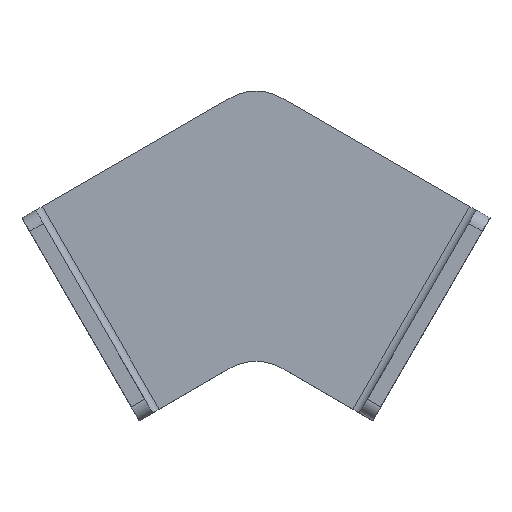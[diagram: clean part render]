
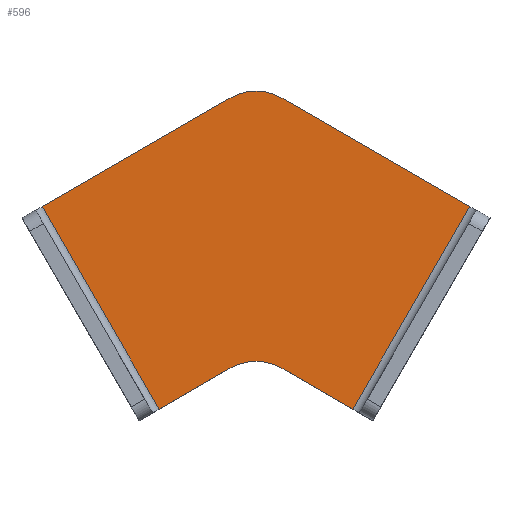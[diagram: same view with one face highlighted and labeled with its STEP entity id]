
A CAD part, top view. The second image highlights one B-rep face of the part: STEP entity #596.
In plain terms, the highlighted planar face has unit normal (0, 0, 1).
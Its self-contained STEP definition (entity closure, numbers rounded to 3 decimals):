
#7 = CARTESIAN_POINT ( 'NONE',  ( -1.69, 4.491, 3. ) ) ;
#10 = CARTESIAN_POINT ( 'NONE',  ( -51.69, 33.358, 3. ) ) ;
#28 = DIRECTION ( 'NONE',  ( -1., 0., 0. ) ) ;
#36 = EDGE_CURVE ( 'NONE', #931, #1058, #1040, .T. ) ;
#46 = AXIS2_PLACEMENT_3D ( 'NONE', #1130, #594, #51 ) ;
#51 = DIRECTION ( 'NONE',  ( -1., 0., 0. ) ) ;
#85 = EDGE_CURVE ( 'NONE', #449, #556, #1132, .T. ) ;
#109 = EDGE_LOOP ( 'NONE', ( #788, #1150, #780, #903, #578, #944, #770, #685 ) ) ;
#175 = LINE ( 'NONE', #10, #899 ) ;
#182 = CARTESIAN_POINT ( 'NONE',  ( -11.69, 4.491, 3. ) ) ;
#288 = VECTOR ( 'NONE', #1068, 1000. ) ;
#303 = EDGE_CURVE ( 'NONE', #556, #931, #943, .T. ) ;
#310 = LINE ( 'NONE', #925, #1016 ) ;
#329 = VERTEX_POINT ( 'NONE', #962 ) ;
#343 = FACE_OUTER_BOUND ( 'NONE', #109, .T. ) ;
#374 = DIRECTION ( 'NONE',  ( 0., 0., -1. ) ) ;
#408 = AXIS2_PLACEMENT_3D ( 'NONE', #463, #374, #1012 ) ;
#412 = CARTESIAN_POINT ( 'NONE',  ( 38.31, 33.358, 3. ) ) ;
#449 = VERTEX_POINT ( 'NONE', #721 ) ;
#463 = CARTESIAN_POINT ( 'NONE',  ( 0., 0., 3. ) ) ;
#468 = VECTOR ( 'NONE', #1049, 1000. ) ;
#485 = VERTEX_POINT ( 'NONE', #1077 ) ;
#517 = CARTESIAN_POINT ( 'NONE',  ( -11.69, 56.452, 3. ) ) ;
#525 = LINE ( 'NONE', #800, #288 ) ;
#549 = DIRECTION ( 'NONE',  ( -0.866, -0.5, 0. ) ) ;
#556 = VERTEX_POINT ( 'NONE', #741 ) ;
#561 = DIRECTION ( 'NONE',  ( 0.866, 0.5, 0. ) ) ;
#571 = DIRECTION ( 'NONE',  ( 0., 0., -1. ) ) ;
#578 = ORIENTED_EDGE ( 'NONE', *, *, #629, .T. ) ;
#594 = DIRECTION ( 'NONE',  ( 0., 0., 1. ) ) ;
#596 = ADVANCED_FACE ( 'NONE', ( #343 ), #921, .F. ) ;
#629 = EDGE_CURVE ( 'NONE', #755, #449, #525, .T. ) ;
#678 = VECTOR ( 'NONE', #1127, 1000. ) ;
#685 = ORIENTED_EDGE ( 'NONE', *, *, #36, .T. ) ;
#698 = CARTESIAN_POINT ( 'NONE',  ( 34.413, 35.608, 3. ) ) ;
#710 = VERTEX_POINT ( 'NONE', #182 ) ;
#721 = CARTESIAN_POINT ( 'NONE',  ( 11.913, -3.363, 3. ) ) ;
#741 = CARTESIAN_POINT ( 'NONE',  ( 34.413, 35.608, 3. ) ) ;
#755 = VERTEX_POINT ( 'NONE', #7 ) ;
#767 = EDGE_CURVE ( 'NONE', #1058, #485, #175, .T. ) ;
#770 = ORIENTED_EDGE ( 'NONE', *, *, #303, .T. ) ;
#780 = ORIENTED_EDGE ( 'NONE', *, *, #860, .T. ) ;
#788 = ORIENTED_EDGE ( 'NONE', *, *, #767, .T. ) ;
#800 = CARTESIAN_POINT ( 'NONE',  ( 15.81, -5.613, 3. ) ) ;
#845 = CARTESIAN_POINT ( 'NONE',  ( -1.69, 56.452, 3. ) ) ;
#860 = EDGE_CURVE ( 'NONE', #329, #710, #310, .T. ) ;
#895 = EDGE_CURVE ( 'NONE', #710, #755, #983, .T. ) ;
#899 = VECTOR ( 'NONE', #549, 1000. ) ;
#903 = ORIENTED_EDGE ( 'NONE', *, *, #895, .T. ) ;
#909 = VECTOR ( 'NONE', #968, 1000. ) ;
#921 = PLANE ( 'NONE',  #408 ) ;
#925 = CARTESIAN_POINT ( 'NONE',  ( -29.19, -5.613, 3. ) ) ;
#931 = VERTEX_POINT ( 'NONE', #845 ) ;
#940 = AXIS2_PLACEMENT_3D ( 'NONE', #1107, #571, #28 ) ;
#943 = LINE ( 'NONE', #412, #468 ) ;
#944 = ORIENTED_EDGE ( 'NONE', *, *, #85, .T. ) ;
#949 = EDGE_CURVE ( 'NONE', #485, #329, #1161, .T. ) ;
#962 = CARTESIAN_POINT ( 'NONE',  ( -25.293, -3.363, 3. ) ) ;
#968 = DIRECTION ( 'NONE',  ( 0.5, 0.866, 0. ) ) ;
#983 = CIRCLE ( 'NONE', #940, 10. ) ;
#1012 = DIRECTION ( 'NONE',  ( -1., 0., 0. ) ) ;
#1016 = VECTOR ( 'NONE', #561, 1000. ) ;
#1040 = CIRCLE ( 'NONE', #46, 10. ) ;
#1043 = CARTESIAN_POINT ( 'NONE',  ( -25.293, -3.363, 3. ) ) ;
#1049 = DIRECTION ( 'NONE',  ( -0.866, 0.5, 0. ) ) ;
#1058 = VERTEX_POINT ( 'NONE', #517 ) ;
#1068 = DIRECTION ( 'NONE',  ( 0.866, -0.5, 0. ) ) ;
#1077 = CARTESIAN_POINT ( 'NONE',  ( -47.793, 35.608, 3. ) ) ;
#1107 = CARTESIAN_POINT ( 'NONE',  ( -6.69, -4.17, 3. ) ) ;
#1127 = DIRECTION ( 'NONE',  ( 0.5, -0.866, 0. ) ) ;
#1130 = CARTESIAN_POINT ( 'NONE',  ( -6.69, 47.792, 3. ) ) ;
#1132 = LINE ( 'NONE', #698, #909 ) ;
#1150 = ORIENTED_EDGE ( 'NONE', *, *, #949, .T. ) ;
#1161 = LINE ( 'NONE', #1043, #678 ) ;
